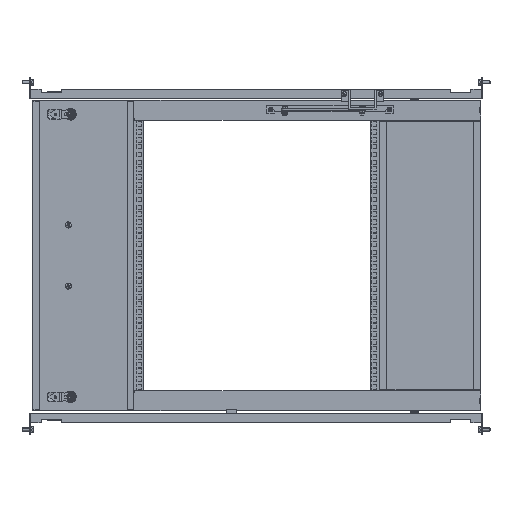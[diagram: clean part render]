
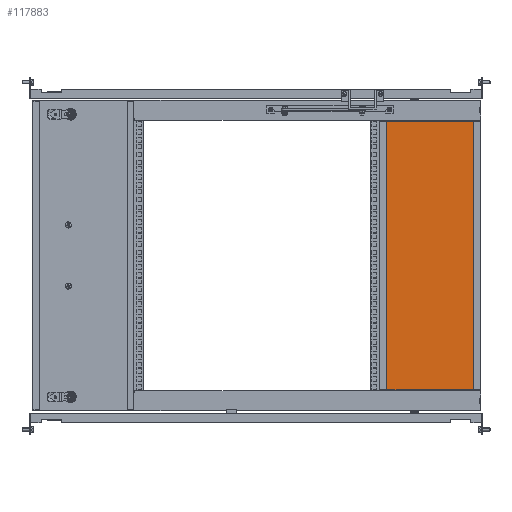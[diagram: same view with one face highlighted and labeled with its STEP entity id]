
A CAD part, top view. The second image highlights one B-rep face of the part: STEP entity #117883.
In plain terms, the highlighted planar face has unit normal (0, 0, 1).
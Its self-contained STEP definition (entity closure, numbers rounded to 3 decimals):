
#117544 = VERTEX_POINT('',#117545);
#117545 = CARTESIAN_POINT('',(-98.5,-265.4,0.));
#117551 = EDGE_CURVE('',#117552,#117544,#117554,.T.);
#117552 = VERTEX_POINT('',#117553);
#117553 = CARTESIAN_POINT('',(-98.5,265.4,0.));
#117554 = LINE('',#117555,#117556);
#117555 = CARTESIAN_POINT('',(-98.5,0.,
    0.));
#117556 = VECTOR('',#117557,1.);
#117557 = DIRECTION('',(0.,-1.,-0.));
#117764 = VERTEX_POINT('',#117765);
#117765 = CARTESIAN_POINT('',(98.5,265.4,0.));
#117771 = EDGE_CURVE('',#117772,#117764,#117774,.T.);
#117772 = VERTEX_POINT('',#117773);
#117773 = CARTESIAN_POINT('',(98.5,-265.4,0.));
#117774 = LINE('',#117775,#117776);
#117775 = CARTESIAN_POINT('',(98.5,0.,
    0.));
#117776 = VECTOR('',#117777,1.);
#117777 = DIRECTION('',(0.,1.,0.));
#117883 = ADVANCED_FACE('',(#117884),#117964,.T.);
#117884 = FACE_BOUND('',#117885,.T.);
#117885 = EDGE_LOOP('',(#117886,#117896,#117902,#117903,#117911,#117919,
    #117927,#117935,#117941,#117942,#117950,#117958));
#117886 = ORIENTED_EDGE('',*,*,#117887,.F.);
#117887 = EDGE_CURVE('',#117888,#117890,#117892,.T.);
#117888 = VERTEX_POINT('',#117889);
#117889 = CARTESIAN_POINT('',(-97.9,265.4,0.));
#117890 = VERTEX_POINT('',#117891);
#117891 = CARTESIAN_POINT('',(-97.9,266.,0.));
#117892 = LINE('',#117893,#117894);
#117893 = CARTESIAN_POINT('',(-97.9,0.,0.));
#117894 = VECTOR('',#117895,1.);
#117895 = DIRECTION('',(-0.,1.,-0.));
#117896 = ORIENTED_EDGE('',*,*,#117897,.T.);
#117897 = EDGE_CURVE('',#117888,#117552,#117898,.T.);
#117898 = LINE('',#117899,#117900);
#117899 = CARTESIAN_POINT('',(-97.9,265.4,0.));
#117900 = VECTOR('',#117901,1.);
#117901 = DIRECTION('',(-1.,-0.,-0.));
#117902 = ORIENTED_EDGE('',*,*,#117551,.T.);
#117903 = ORIENTED_EDGE('',*,*,#117904,.F.);
#117904 = EDGE_CURVE('',#117905,#117544,#117907,.T.);
#117905 = VERTEX_POINT('',#117906);
#117906 = CARTESIAN_POINT('',(-97.9,-265.4,0.));
#117907 = LINE('',#117908,#117909);
#117908 = CARTESIAN_POINT('',(0.,-265.4,0.));
#117909 = VECTOR('',#117910,1.);
#117910 = DIRECTION('',(-1.,-0.,-0.));
#117911 = ORIENTED_EDGE('',*,*,#117912,.T.);
#117912 = EDGE_CURVE('',#117905,#117913,#117915,.T.);
#117913 = VERTEX_POINT('',#117914);
#117914 = CARTESIAN_POINT('',(-97.9,-266.,0.));
#117915 = LINE('',#117916,#117917);
#117916 = CARTESIAN_POINT('',(-97.9,-265.4,0.));
#117917 = VECTOR('',#117918,1.);
#117918 = DIRECTION('',(-0.,-1.,-0.));
#117919 = ORIENTED_EDGE('',*,*,#117920,.T.);
#117920 = EDGE_CURVE('',#117913,#117921,#117923,.T.);
#117921 = VERTEX_POINT('',#117922);
#117922 = CARTESIAN_POINT('',(97.9,-266.,0.));
#117923 = LINE('',#117924,#117925);
#117924 = CARTESIAN_POINT('',(0.,-266.,0.));
#117925 = VECTOR('',#117926,1.);
#117926 = DIRECTION('',(1.,-0.,-0.));
#117927 = ORIENTED_EDGE('',*,*,#117928,.F.);
#117928 = EDGE_CURVE('',#117929,#117921,#117931,.T.);
#117929 = VERTEX_POINT('',#117930);
#117930 = CARTESIAN_POINT('',(97.9,-265.4,0.));
#117931 = LINE('',#117932,#117933);
#117932 = CARTESIAN_POINT('',(97.9,0.,0.));
#117933 = VECTOR('',#117934,1.);
#117934 = DIRECTION('',(-0.,-1.,-0.));
#117935 = ORIENTED_EDGE('',*,*,#117936,.T.);
#117936 = EDGE_CURVE('',#117929,#117772,#117937,.T.);
#117937 = LINE('',#117938,#117939);
#117938 = CARTESIAN_POINT('',(97.9,-265.4,0.));
#117939 = VECTOR('',#117940,1.);
#117940 = DIRECTION('',(1.,-0.,-0.));
#117941 = ORIENTED_EDGE('',*,*,#117771,.T.);
#117942 = ORIENTED_EDGE('',*,*,#117943,.F.);
#117943 = EDGE_CURVE('',#117944,#117764,#117946,.T.);
#117944 = VERTEX_POINT('',#117945);
#117945 = CARTESIAN_POINT('',(97.9,265.4,0.));
#117946 = LINE('',#117947,#117948);
#117947 = CARTESIAN_POINT('',(0.,265.4,0.));
#117948 = VECTOR('',#117949,1.);
#117949 = DIRECTION('',(1.,-0.,-0.));
#117950 = ORIENTED_EDGE('',*,*,#117951,.T.);
#117951 = EDGE_CURVE('',#117944,#117952,#117954,.T.);
#117952 = VERTEX_POINT('',#117953);
#117953 = CARTESIAN_POINT('',(97.9,266.,0.));
#117954 = LINE('',#117955,#117956);
#117955 = CARTESIAN_POINT('',(97.9,265.4,0.));
#117956 = VECTOR('',#117957,1.);
#117957 = DIRECTION('',(0.,1.,-0.));
#117958 = ORIENTED_EDGE('',*,*,#117959,.F.);
#117959 = EDGE_CURVE('',#117890,#117952,#117960,.T.);
#117960 = LINE('',#117961,#117962);
#117961 = CARTESIAN_POINT('',(0.,266.,0.));
#117962 = VECTOR('',#117963,1.);
#117963 = DIRECTION('',(1.,0.,0.));
#117964 = PLANE('',#117965);
#117965 = AXIS2_PLACEMENT_3D('',#117966,#117967,#117968);
#117966 = CARTESIAN_POINT('',(0.,0.,0.));
#117967 = DIRECTION('',(0.,-0.,1.));
#117968 = DIRECTION('',(1.,0.,0.));
